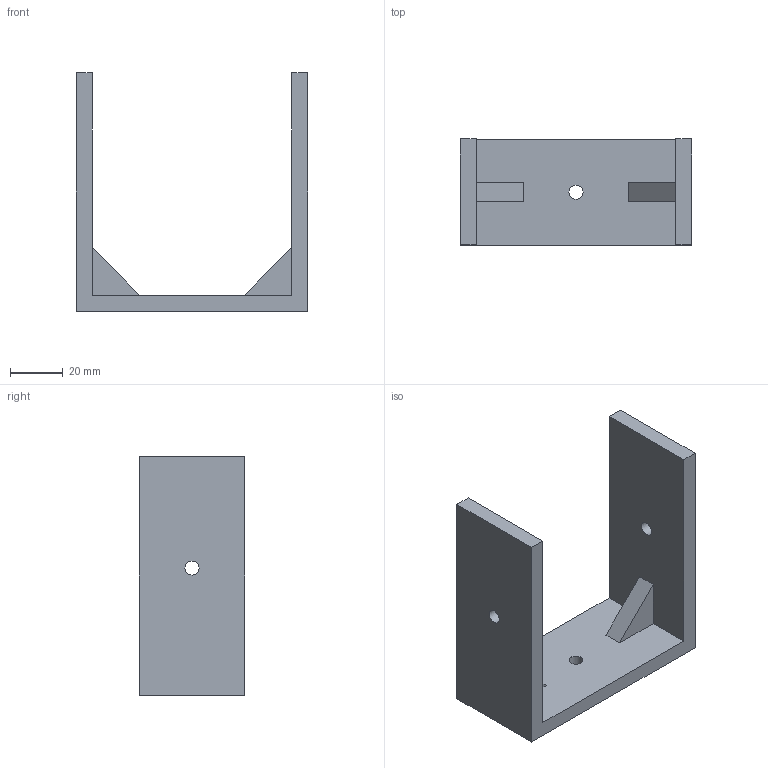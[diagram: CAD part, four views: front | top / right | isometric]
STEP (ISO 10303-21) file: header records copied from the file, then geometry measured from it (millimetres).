
FILE_DESCRIPTION(('Mechanical CAD reference from nasji.com'),'2;1');
FILE_NAME('NASJI.step','',(''),(''),'','NASJI distribution','');
FILE_SCHEMA(('AUTOMOTIVE_DESIGN { 1 0 10303 214 1 1 1 1 }'));
Length unit declared in the file: millimetre
Products named in the file (1): Open CASCADE STEP translator 7.8 140
Bounding box: 87.36 x 40 x 90 mm (x, y, z)
Volume: 63260.8 mm3; surface area: 24636 mm2
Topology: 1 solids, 1 shells, 19 faces, 51 edges, 34 vertices
Faces by surface type: plane 16, cylinder 3
Full cylindrical faces by diameter (mm): 5.3 x3
Entity records: 1280 total; most frequent: CARTESIAN_POINT 239, DIRECTION 187, LINE 133, VECTOR 133, ORIENTED_EDGE 102, PCURVE 102, DEFINITIONAL_REPRESENTATION 102, EDGE_CURVE 51
